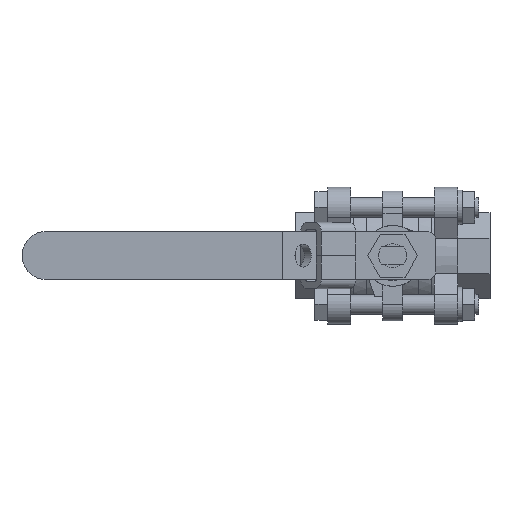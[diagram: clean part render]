
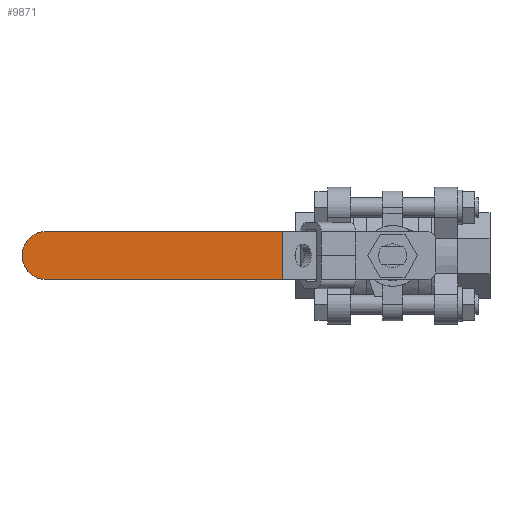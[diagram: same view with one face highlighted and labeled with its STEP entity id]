
A CAD part, top view. The second image highlights one B-rep face of the part: STEP entity #9871.
In plain terms, the highlighted planar face has unit normal (0, 0, 1).
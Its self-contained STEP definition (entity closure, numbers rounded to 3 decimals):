
#3250 = PLANE('',#3251);
#3251 = AXIS2_PLACEMENT_3D('',#3252,#3253,#3254);
#3252 = CARTESIAN_POINT('',(-0.963,0.374,
    2.479));
#3253 = DIRECTION('',(0.,-1.,0.));
#3254 = DIRECTION('',(0.,0.,1.));
#3331 = VERTEX_POINT('',#3332);
#3332 = CARTESIAN_POINT('',(-0.198,0.374,2.88
    ));
#3346 = PLANE('',#3347);
#3347 = AXIS2_PLACEMENT_3D('',#3348,#3349,#3350);
#3348 = CARTESIAN_POINT('',(0.852,-0.371,1.83
    ));
#3349 = DIRECTION('',(0.707,0.,0.707)
  );
#3350 = DIRECTION('',(0.707,0.,-0.707
    ));
#3358 = EDGE_CURVE('',#3331,#3359,#3361,.T.);
#3359 = VERTEX_POINT('',#3360);
#3360 = CARTESIAN_POINT('',(-3.853,0.374,2.88
    ));
#3361 = SURFACE_CURVE('',#3362,(#3366,#3373),.PCURVE_S1.);
#3362 = LINE('',#3363,#3364);
#3363 = CARTESIAN_POINT('',(-4.261,0.374,2.88
    ));
#3364 = VECTOR('',#3365,1.);
#3365 = DIRECTION('',(-1.,0.,0.));
#3366 = PCURVE('',#3250,#3367);
#3367 = DEFINITIONAL_REPRESENTATION('',(#3368),#3372);
#3368 = LINE('',#3369,#3370);
#3369 = CARTESIAN_POINT('',(0.401,3.298));
#3370 = VECTOR('',#3371,1.);
#3371 = DIRECTION('',(0.,1.));
#3372 = ( GEOMETRIC_REPRESENTATION_CONTEXT(2) 
PARAMETRIC_REPRESENTATION_CONTEXT() REPRESENTATION_CONTEXT('2D SPACE',''
  ) );
#3373 = PCURVE('',#3374,#3379);
#3374 = PLANE('',#3375);
#3375 = AXIS2_PLACEMENT_3D('',#3376,#3377,#3378);
#3376 = CARTESIAN_POINT('',(-0.198,-0.371,
    2.88));
#3377 = DIRECTION('',(0.,0.,1.));
#3378 = DIRECTION('',(1.,0.,0.));
#3379 = DEFINITIONAL_REPRESENTATION('',(#3380),#3384);
#3380 = LINE('',#3381,#3382);
#3381 = CARTESIAN_POINT('',(-4.063,0.745));
#3382 = VECTOR('',#3383,1.);
#3383 = DIRECTION('',(-1.,0.));
#3384 = ( GEOMETRIC_REPRESENTATION_CONTEXT(2) 
PARAMETRIC_REPRESENTATION_CONTEXT() REPRESENTATION_CONTEXT('2D SPACE',''
  ) );
#3402 = CYLINDRICAL_SURFACE('',#3403,0.373);
#3403 = AXIS2_PLACEMENT_3D('',#3404,#3405,#3406);
#3404 = CARTESIAN_POINT('',(-3.853,0.001,
    2.727));
#3405 = DIRECTION('',(0.,0.,-1.));
#3406 = DIRECTION('',(-1.,0.,0.));
#4012 = PLANE('',#4013);
#4013 = AXIS2_PLACEMENT_3D('',#4014,#4015,#4016);
#4014 = CARTESIAN_POINT('',(-0.963,-0.371,
    2.479));
#4015 = DIRECTION('',(0.,-1.,0.));
#4016 = DIRECTION('',(0.,0.,1.));
#9803 = VERTEX_POINT('',#9804);
#9804 = CARTESIAN_POINT('',(-3.853,-0.371,
    2.88));
#9850 = EDGE_CURVE('',#3359,#9803,#9851,.T.);
#9851 = SURFACE_CURVE('',#9852,(#9857,#9864),.PCURVE_S1.);
#9852 = CIRCLE('',#9853,0.373);
#9853 = AXIS2_PLACEMENT_3D('',#9854,#9855,#9856);
#9854 = CARTESIAN_POINT('',(-3.853,0.001,
    2.88));
#9855 = DIRECTION('',(0.,0.,1.));
#9856 = DIRECTION('',(-1.,0.,0.));
#9857 = PCURVE('',#3402,#9858);
#9858 = DEFINITIONAL_REPRESENTATION('',(#9859),#9863);
#9859 = LINE('',#9860,#9861);
#9860 = CARTESIAN_POINT('',(-0.,-0.153));
#9861 = VECTOR('',#9862,1.);
#9862 = DIRECTION('',(-1.,0.));
#9863 = ( GEOMETRIC_REPRESENTATION_CONTEXT(2) 
PARAMETRIC_REPRESENTATION_CONTEXT() REPRESENTATION_CONTEXT('2D SPACE',''
  ) );
#9864 = PCURVE('',#3374,#9865);
#9865 = DEFINITIONAL_REPRESENTATION('',(#9866),#9870);
#9866 = CIRCLE('',#9867,0.373);
#9867 = AXIS2_PLACEMENT_2D('',#9868,#9869);
#9868 = CARTESIAN_POINT('',(-3.655,0.373));
#9869 = DIRECTION('',(-1.,0.));
#9870 = ( GEOMETRIC_REPRESENTATION_CONTEXT(2) 
PARAMETRIC_REPRESENTATION_CONTEXT() REPRESENTATION_CONTEXT('2D SPACE',''
  ) );
#9871 = ADVANCED_FACE('',(#9872),#3374,.T.);
#9872 = FACE_BOUND('',#9873,.T.);
#9873 = EDGE_LOOP('',(#9874,#9875,#9898,#9919));
#9874 = ORIENTED_EDGE('',*,*,#9850,.T.);
#9875 = ORIENTED_EDGE('',*,*,#9876,.T.);
#9876 = EDGE_CURVE('',#9803,#9877,#9879,.T.);
#9877 = VERTEX_POINT('',#9878);
#9878 = CARTESIAN_POINT('',(-0.198,-0.371,
    2.88));
#9879 = SURFACE_CURVE('',#9880,(#9884,#9891),.PCURVE_S1.);
#9880 = LINE('',#9881,#9882);
#9881 = CARTESIAN_POINT('',(-4.261,-0.371,
    2.88));
#9882 = VECTOR('',#9883,1.);
#9883 = DIRECTION('',(1.,0.,0.));
#9884 = PCURVE('',#3374,#9885);
#9885 = DEFINITIONAL_REPRESENTATION('',(#9886),#9890);
#9886 = LINE('',#9887,#9888);
#9887 = CARTESIAN_POINT('',(-4.063,0.));
#9888 = VECTOR('',#9889,1.);
#9889 = DIRECTION('',(1.,0.));
#9890 = ( GEOMETRIC_REPRESENTATION_CONTEXT(2) 
PARAMETRIC_REPRESENTATION_CONTEXT() REPRESENTATION_CONTEXT('2D SPACE',''
  ) );
#9891 = PCURVE('',#4012,#9892);
#9892 = DEFINITIONAL_REPRESENTATION('',(#9893),#9897);
#9893 = LINE('',#9894,#9895);
#9894 = CARTESIAN_POINT('',(0.401,3.298));
#9895 = VECTOR('',#9896,1.);
#9896 = DIRECTION('',(0.,-1.));
#9897 = ( GEOMETRIC_REPRESENTATION_CONTEXT(2) 
PARAMETRIC_REPRESENTATION_CONTEXT() REPRESENTATION_CONTEXT('2D SPACE',''
  ) );
#9898 = ORIENTED_EDGE('',*,*,#9899,.T.);
#9899 = EDGE_CURVE('',#9877,#3331,#9900,.T.);
#9900 = SURFACE_CURVE('',#9901,(#9905,#9912),.PCURVE_S1.);
#9901 = LINE('',#9902,#9903);
#9902 = CARTESIAN_POINT('',(-0.198,-0.371,
    2.88));
#9903 = VECTOR('',#9904,1.);
#9904 = DIRECTION('',(0.,1.,0.));
#9905 = PCURVE('',#3374,#9906);
#9906 = DEFINITIONAL_REPRESENTATION('',(#9907),#9911);
#9907 = LINE('',#9908,#9909);
#9908 = CARTESIAN_POINT('',(0.,0.));
#9909 = VECTOR('',#9910,1.);
#9910 = DIRECTION('',(0.,1.));
#9911 = ( GEOMETRIC_REPRESENTATION_CONTEXT(2) 
PARAMETRIC_REPRESENTATION_CONTEXT() REPRESENTATION_CONTEXT('2D SPACE',''
  ) );
#9912 = PCURVE('',#3346,#9913);
#9913 = DEFINITIONAL_REPRESENTATION('',(#9914),#9918);
#9914 = LINE('',#9915,#9916);
#9915 = CARTESIAN_POINT('',(-1.485,0.));
#9916 = VECTOR('',#9917,1.);
#9917 = DIRECTION('',(0.,1.));
#9918 = ( GEOMETRIC_REPRESENTATION_CONTEXT(2) 
PARAMETRIC_REPRESENTATION_CONTEXT() REPRESENTATION_CONTEXT('2D SPACE',''
  ) );
#9919 = ORIENTED_EDGE('',*,*,#3358,.T.);
